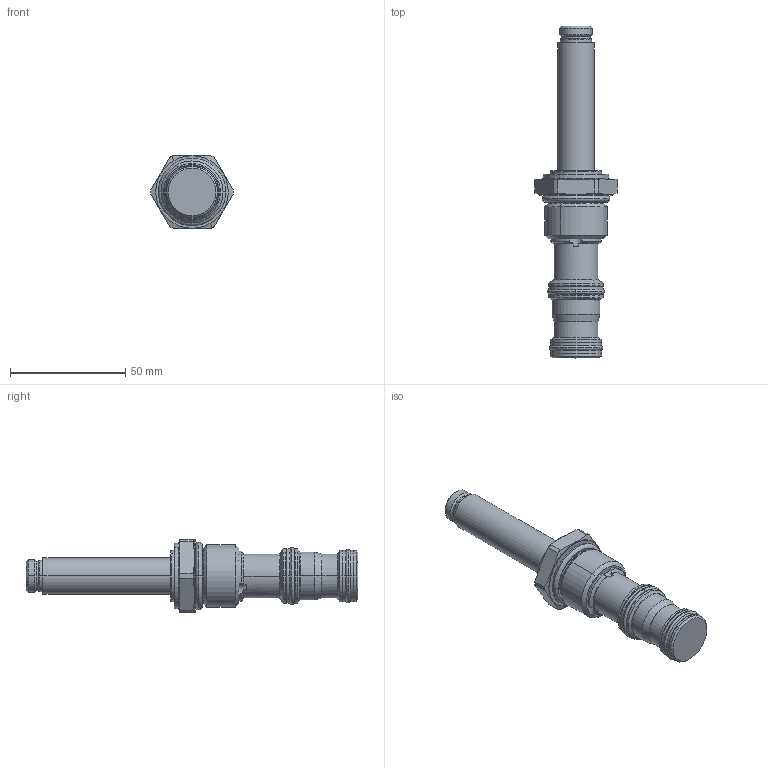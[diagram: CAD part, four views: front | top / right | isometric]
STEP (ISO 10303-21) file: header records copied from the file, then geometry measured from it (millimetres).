
FILE_DESCRIPTION((''),'2;1');
FILE_NAME('TS12-36','2009-03-25T',('JCS'),(''),'PRO/ENGINEER BY PARAMETRIC TECHNOLOGY CORPORATION, 2008510','PRO/ENGINEER BY PARAMETRIC TECHNOLOGY CORPORATION, 2008510','');
FILE_SCHEMA(('CONFIG_CONTROL_DESIGN'));
Length unit declared in the file: inch
Products named in the file (1): TS12-36
Bounding box: 35.68 x 144.13 x 31.75 mm (x, y, z)
Volume: 48133.1 mm3; surface area: 13206.9 mm2
Topology: 3 solids, 3 shells, 191 faces, 457 edges, 280 vertices
Faces by surface type: torus 63, cylinder 56, cone 49, plane 23
Entity records: 5784 total; most frequent: DIRECTION 1122, CARTESIAN_POINT 1096, ORIENTED_EDGE 914, AXIS2_PLACEMENT_3D 504, EDGE_CURVE 457, CIRCLE 313, VERTEX_POINT 280, EDGE_LOOP 203
